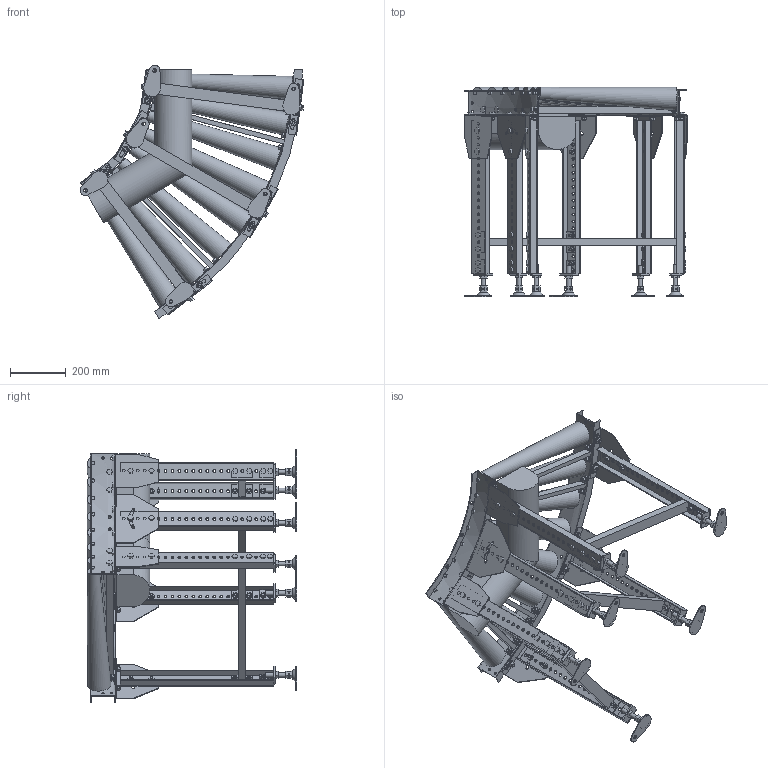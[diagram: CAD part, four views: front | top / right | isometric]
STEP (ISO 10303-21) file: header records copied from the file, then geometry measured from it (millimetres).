
FILE_DESCRIPTION( (''), '2;1');
FILE_NAME ('WEB-MCD-50-500-75-60°-C5.stp','2025-06-26T16:58:52',(''),(''),'spGate 20.6.2 (****-****-****-****)','','');
FILE_SCHEMA (('AUTOMOTIVE_DESIGN'));
Length unit declared in the file: millimetre
Products named in the file (45): WEB-MCD-50-500-75-60_-C5; TEMP_X_T-prt0; TEMP_X_T-prt1; TEMP_X_T-prt2; TEMP_X_T-prt3; TEMP_X_T-prt4; TEMP_X_T-prt5; TEMP_X_T-prt6; TEMP_X_T-prt7; TEMP_X_T-prt8; TEMP_X_T-prt9; TEMP_X_T-prt10; TEMP_X_T-prt11; TEMP_X_T-prt12; TEMP_X_T-prt13; TEMP_X_T-prt14; TEMP_X_T-prt15; TEMP_X_T-prt16; TEMP_X_T-prt17; TEMP_X_T-prt18; TEMP_X_T-prt19; TEMP_X_T-prt20; TEMP_X_T-prt21; TEMP_X_T-prt22; TEMP_X_T-prt23; TEMP_X_T-prt24; TEMP_X_T-prt25; TEMP_X_T-prt26; TEMP_X_T-prt27; TEMP_X_T-prt28; TEMP_X_T-prt29; TEMP_X_T-prt30; TEMP_X_T-prt31; TEMP_X_T-prt32; TEMP_X_T-prt33; TEMP_X_T-prt34; TEMP_X_T-prt35; TEMP_X_T-prt36; TEMP_X_T-prt37; TEMP_X_T-prt38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
Assembly tree (44 placements, depth 2):
  WEB-MCD-50-500-75-60_-C5
    TEMP_X_T-prt0
    TEMP_X_T-prt1
    TEMP_X_T-prt2
    TEMP_X_T-prt3
    TEMP_X_T-prt4
    TEMP_X_T-prt5
    TEMP_X_T-prt6
    TEMP_X_T-prt7
    TEMP_X_T-prt8
    TEMP_X_T-prt9
    TEMP_X_T-prt10
    TEMP_X_T-prt11
    TEMP_X_T-prt12
    TEMP_X_T-prt13
    TEMP_X_T-prt14
    TEMP_X_T-prt15
    TEMP_X_T-prt16
    TEMP_X_T-prt17
    TEMP_X_T-prt18
    TEMP_X_T-prt19
    TEMP_X_T-prt20
    TEMP_X_T-prt21
    TEMP_X_T-prt22
    TEMP_X_T-prt23
    TEMP_X_T-prt24
    TEMP_X_T-prt25
    TEMP_X_T-prt26
    TEMP_X_T-prt27
    TEMP_X_T-prt28
    TEMP_X_T-prt29
    TEMP_X_T-prt30
    TEMP_X_T-prt31
    TEMP_X_T-prt32
    TEMP_X_T-prt33
    TEMP_X_T-prt34
    TEMP_X_T-prt35
    TEMP_X_T-prt36
    TEMP_X_T-prt37
    TEMP_X_T-prt38
    TEMP_X_T-prt39
    TEMP_X_T-prt40
    TEMP_X_T-prt41
    TEMP_X_T-prt42
    TEMP_X_T-prt43
Bounding box: 801.69 x 749.97 x 908.76 mm (x, y, z)
Volume: 27737550.3 mm3; surface area: 3255048.9 mm2
Topology: 44 solids, 76 shells, 2754 faces, 6707 edges, 4310 vertices
Faces by surface type: plane 2324, cylinder 416, bspline 14
Full cylindrical faces by diameter (mm): 8.5 x8, 10 x72, 10.5 x138, 11 x6, 12 x16, 13 x6, 14 x6, 16 x6, 18.4 x48, 18.5 x12, 21 x24
Entity records: 139541 total; most frequent: CARTESIAN_POINT 17011, DIRECTION 13964, ORIENTED_EDGE 13414, COLOUR_RGB 9505, PRESENTATION_STYLE_ASSIGNMENT 9505, STYLED_ITEM 9505, EDGE_CURVE 6707, DRAUGHTING_PRE_DEFINED_CURVE_FONT 6707
